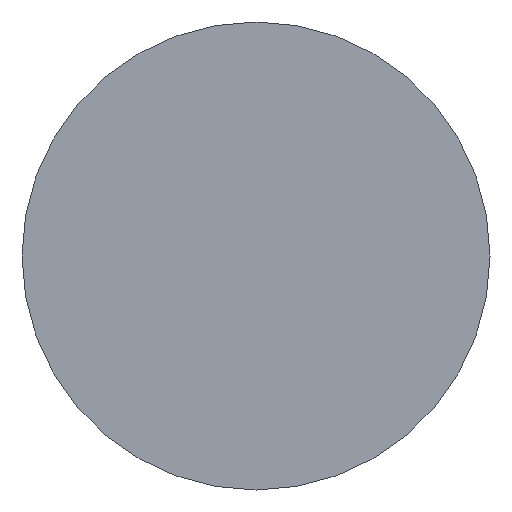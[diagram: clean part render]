
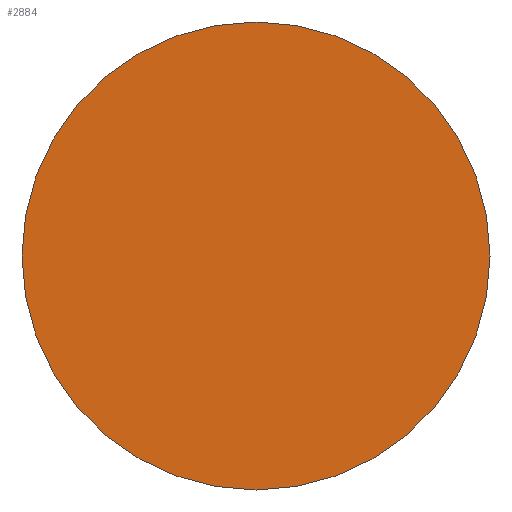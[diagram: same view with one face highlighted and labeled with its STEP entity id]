
A CAD part, left-side view. The second image highlights one B-rep face of the part: STEP entity #2884.
In plain terms, the highlighted planar face has unit normal (-1, 0, 0) as drawn and (0, -1, 0) by its records, which use the part's own axes.
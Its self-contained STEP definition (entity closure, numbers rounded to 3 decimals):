
#557=FACE_OUTER_BOUND('',#770,.T.);
#770=EDGE_LOOP('',(#1936));
#985=CIRCLE('',#3138,30.);
#1233=VERTEX_POINT('',#4586);
#1482=EDGE_CURVE('',#1233,#1233,#985,.T.);
#1936=ORIENTED_EDGE('',*,*,#1482,.F.);
#2844=PLANE('',#3137);
#2884=ADVANCED_FACE('',(#557),#2844,.F.);
#3137=AXIS2_PLACEMENT_3D('',#4585,#3577,#3578);
#3138=AXIS2_PLACEMENT_3D('',#4587,#3579,#3580);
#3577=DIRECTION('center_axis',(0.,1.,0.));
#3578=DIRECTION('ref_axis',(1.,0.,0.));
#3579=DIRECTION('center_axis',(0.,1.,0.));
#3580=DIRECTION('ref_axis',(1.,0.,0.));
#4585=CARTESIAN_POINT('Origin',(0.,0.,0.));
#4586=CARTESIAN_POINT('',(-30.,0.,0.));
#4587=CARTESIAN_POINT('Origin',(0.,0.,0.));
